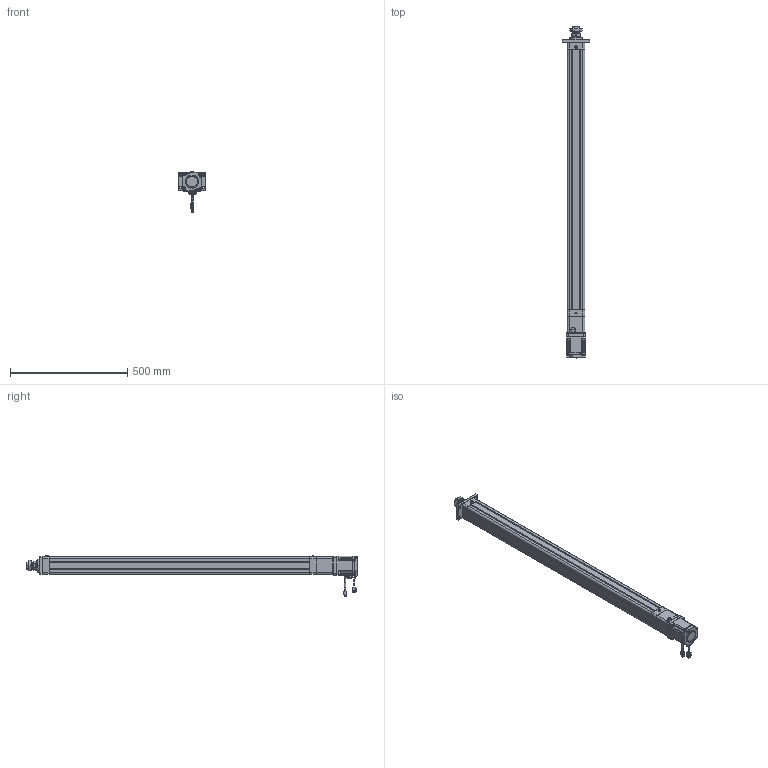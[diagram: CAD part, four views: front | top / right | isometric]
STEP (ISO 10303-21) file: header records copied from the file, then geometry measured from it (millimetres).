
FILE_DESCRIPTION((''),'2;1');
FILE_NAME('HE63-D-100-X1_ASM','2020-04-15T',('ASUS20200'),(''),'CREO PARAMETRIC BY PTC INC, 2014190','CREO PARAMETRIC BY PTC INC, 2014190','');
FILE_SCHEMA(('CONFIG_CONTROL_DESIGN'));
Length unit declared in the file: millimetre
Products named in the file (28): HE63-D-P-001-X1; HE63-D-P-002-X1; HE63-D-P-003-X1; LGLM-M8-22; HE63-D-009-X1; HE63-D-010-X1; M6X16; _MHMF082L1A2; _CABLE_MOTOR_BOTTOM_05; _CABLE_MOTOR_TOP_05; _MOTOR_CONNECTOR_2; _CABLE_BRAKE_BOTTOM_05; _CABLE_BRAKE_TOP_05; _MHMF_CONNECTOR_9_PIN_A6; MHMF082L1A2M2_1_ASM; SLM-01; YZ-M6X1; SKT-16; TD-6; JDB405030; JX6X6X25; HE63-D-P-005-X1; HE63-D-P-004-X1; HE63-D-P-008-X1; M6X25; F-SE63FA; M8X16; HE63-D-100-X1_ASM
Assembly tree (46 placements, depth 3):
  HE63-D-100-X1_ASM
    HE63-D-P-001-X1
    HE63-D-P-002-X1
    HE63-D-P-003-X1
    LGLM-M8-22  x8
    HE63-D-009-X1
    HE63-D-010-X1
    M6X16  x4
    MHMF082L1A2M2_1_ASM
      _MHMF082L1A2
      _CABLE_MOTOR_BOTTOM_05
      _CABLE_MOTOR_TOP_05
      _MOTOR_CONNECTOR_2
      _CABLE_BRAKE_BOTTOM_05
      _CABLE_BRAKE_TOP_05
      _MHMF_CONNECTOR_9_PIN_A6
    SLM-01
    YZ-M6X1
    SKT-16
    TD-6  x4
    JDB405030
    JX6X6X25
    HE63-D-P-005-X1
    HE63-D-P-004-X1
    HE63-D-P-008-X1
    M6X25  x4
    F-SE63FA
    M8X16  x4
Bounding box: 118 x 1416.9 x 179.15 mm (x, y, z)
Volume: 3558186.5 mm3; surface area: 1080034 mm2
Topology: 45 solids, 73 shells, 2558 faces, 6213 edges, 3886 vertices
Faces by surface type: plane 1082, cylinder 752, cone 535, torus 142, sphere 44, bspline 3
Entity records: 63329 total; most frequent: CARTESIAN_POINT 11891, DIRECTION 11339, ORIENTED_EDGE 10070, EDGE_CURVE 5085, AXIS2_PLACEMENT_3D 4257, VERTEX_POINT 3207, VECTOR 2825, LINE 2825
